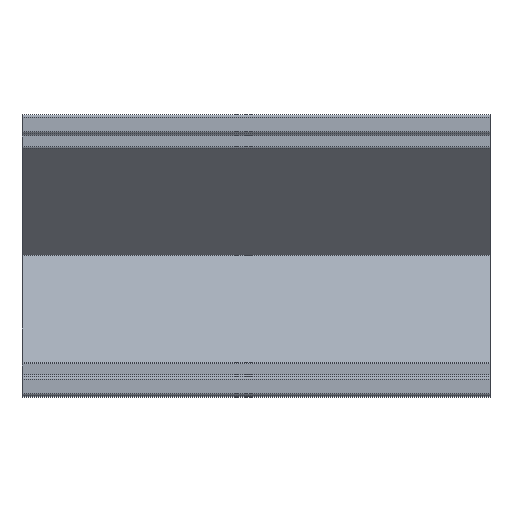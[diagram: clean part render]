
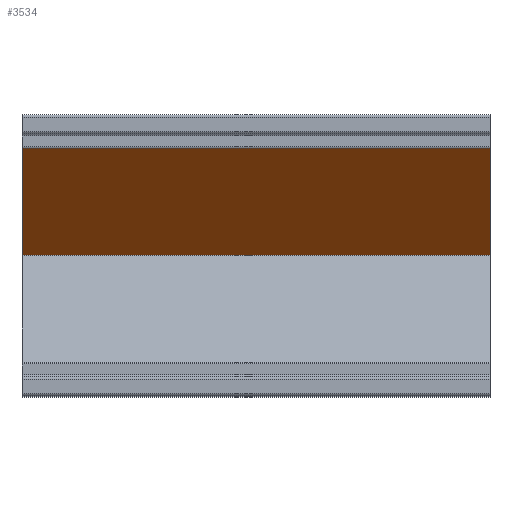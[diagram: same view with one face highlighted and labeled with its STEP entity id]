
A CAD part, top view. The second image highlights one B-rep face of the part: STEP entity #3534.
In plain terms, the highlighted planar face has unit normal (0, -0.707, 0.707).
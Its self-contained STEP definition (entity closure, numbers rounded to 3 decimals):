
#109 = EDGE_LOOP ( 'NONE', ( #1256, #6183, #999, #7353 ) ) ;
#126 = LINE ( 'NONE', #6491, #631 ) ;
#327 = CARTESIAN_POINT ( 'NONE',  ( 59.184, 77.752, 86.854 ) ) ;
#481 = VERTEX_POINT ( 'NONE', #8116 ) ;
#496 = EDGE_CURVE ( 'NONE', #1166, #481, #6359, .T. ) ;
#631 = VECTOR ( 'NONE', #5740, 1000. ) ;
#751 = DIRECTION ( 'NONE',  ( 0., -0.707, -0.707 ) ) ;
#999 = ORIENTED_EDGE ( 'NONE', *, *, #496, .F. ) ;
#1166 = VERTEX_POINT ( 'NONE', #327 ) ;
#1256 = ORIENTED_EDGE ( 'NONE', *, *, #3522, .T. ) ;
#1381 = CARTESIAN_POINT ( 'NONE',  ( -40.816, 77.752, 86.854 ) ) ;
#1645 = FACE_OUTER_BOUND ( 'NONE', #109, .T. ) ;
#1954 = EDGE_CURVE ( 'NONE', #1166, #7038, #126, .T. ) ;
#2010 = DIRECTION ( 'NONE',  ( 0., 0.707, -0.707 ) ) ;
#2727 = CARTESIAN_POINT ( 'NONE',  ( 59.184, 77.752, 86.854 ) ) ;
#2880 = DIRECTION ( 'NONE',  ( 0., -0.707, -0.707 ) ) ;
#3390 = VECTOR ( 'NONE', #751, 1000. ) ;
#3522 = EDGE_CURVE ( 'NONE', #7038, #4814, #7809, .T. ) ;
#3534 = ADVANCED_FACE ( 'NONE', ( #1645 ), #5340, .F. ) ;
#4288 = CARTESIAN_POINT ( 'NONE',  ( 59.184, 54.898, 64. ) ) ;
#4577 = AXIS2_PLACEMENT_3D ( 'NONE', #2727, #2010, #5409 ) ;
#4814 = VERTEX_POINT ( 'NONE', #6685 ) ;
#5340 = PLANE ( 'NONE',  #4577 ) ;
#5409 = DIRECTION ( 'NONE',  ( 0., 0.707, 0.707 ) ) ;
#5707 = LINE ( 'NONE', #4288, #8457 ) ;
#5740 = DIRECTION ( 'NONE',  ( -1., 0., 0. ) ) ;
#5982 = EDGE_CURVE ( 'NONE', #481, #4814, #5707, .T. ) ;
#6183 = ORIENTED_EDGE ( 'NONE', *, *, #5982, .F. ) ;
#6232 = DIRECTION ( 'NONE',  ( -1., 0., 0. ) ) ;
#6359 = LINE ( 'NONE', #7469, #6994 ) ;
#6491 = CARTESIAN_POINT ( 'NONE',  ( 59.184, 77.752, 86.854 ) ) ;
#6685 = CARTESIAN_POINT ( 'NONE',  ( -40.816, 54.898, 64. ) ) ;
#6758 = CARTESIAN_POINT ( 'NONE',  ( -40.816, 77.752, 86.854 ) ) ;
#6994 = VECTOR ( 'NONE', #2880, 1000. ) ;
#7038 = VERTEX_POINT ( 'NONE', #1381 ) ;
#7353 = ORIENTED_EDGE ( 'NONE', *, *, #1954, .T. ) ;
#7469 = CARTESIAN_POINT ( 'NONE',  ( 59.184, 77.752, 86.854 ) ) ;
#7809 = LINE ( 'NONE', #6758, #3390 ) ;
#8116 = CARTESIAN_POINT ( 'NONE',  ( 59.184, 54.898, 64. ) ) ;
#8457 = VECTOR ( 'NONE', #6232, 1000. ) ;
